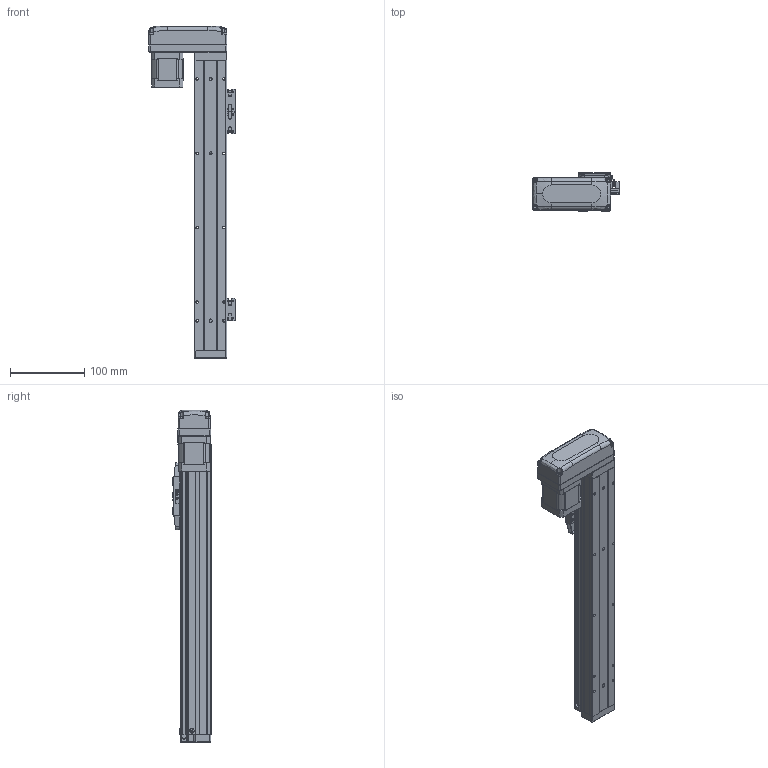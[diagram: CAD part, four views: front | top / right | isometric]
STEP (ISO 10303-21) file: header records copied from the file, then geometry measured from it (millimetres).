
FILE_DESCRIPTION (( 'STEP AP203' ), '1' );
FILE_NAME ('GTH4-250-BR-B42-C4.step', '2023-02-14T00:25:46', ( '微软用户' ), ( '微软中国' ), 'SwSTEP 2.0', 'SolidWorks 2020', '' );
FILE_SCHEMA (( 'CONFIG_CONTROL_DESIGN' ));
Length unit declared in the file: millimetre
Products named in the file (19): BTH50-024; GBT 70.3-M3℅6; BTH40-003; GBT 70.1-M3℅6; BTH40-027-1; BTH40-006; GBT96.1-2002 3×0.8; BTH50-026; BTH-M3X5X6; BTH40-022; 42CM06; GBT70.1-2000 M3×16; GBT 70.1-M2.5×6; GTH4-250-BR-B42-C4; BTH50-028; BTH40-004; BTH50-023; BTH40-013; BTH40-001-50_BTH40-001-250
Assembly tree (47 placements, depth 2):
  GTH4-250-BR-B42-C4
    BTH40-001-50_BTH40-001-250
    BTH40-003
    BTH40-006
    BTH-M3X5X6  x8
    GBT70.1-2000 M3×16  x4
    BTH50-028  x2
    BTH50-023  x3
    BTH50-024  x3
    GBT 70.1-M3℅6  x6
    GBT96.1-2002 3×0.8  x6
    BTH40-022
    GBT 70.1-M2.5×6  x2
    BTH40-004
    BTH40-013
    GBT 70.3-M3℅6  x4
    BTH40-027-1
    BTH50-026
    42CM06
Bounding box: 116.2 x 52 x 446 mm (x, y, z)
Volume: 856138 mm3; surface area: 188601 mm2
Topology: 56 solids, 56 shells, 3331 faces, 7760 edges, 4638 vertices
Faces by surface type: cone 1508, plane 1076, cylinder 569, torus 124, bspline 42, sphere 12
Entity records: 77742 total; most frequent: CARTESIAN_POINT 14017, DIRECTION 13817, ORIENTED_EDGE 12166, EDGE_CURVE 6083, AXIS2_PLACEMENT_3D 5301, VERTEX_POINT 3625, LINE 3215, VECTOR 3215
